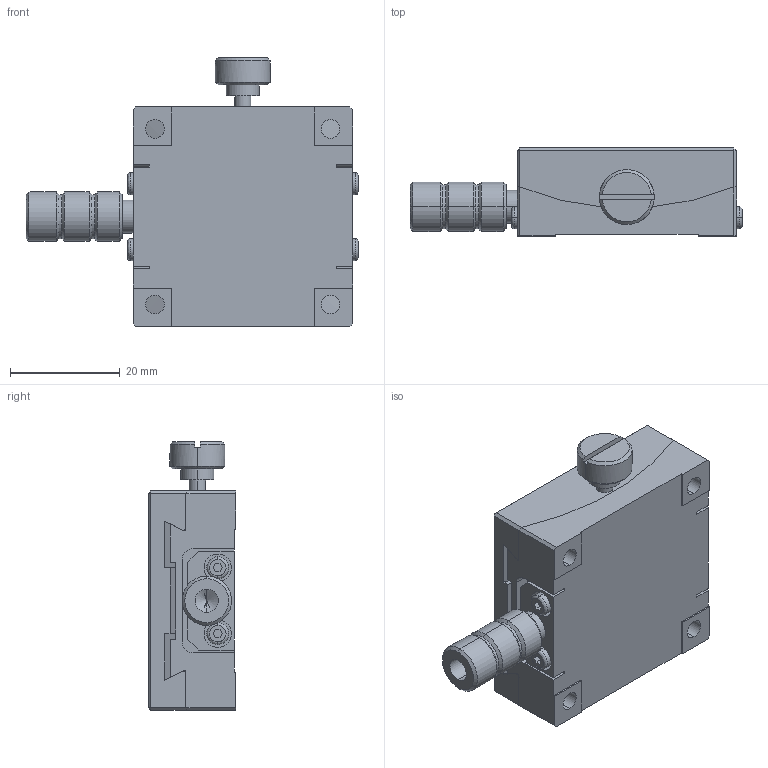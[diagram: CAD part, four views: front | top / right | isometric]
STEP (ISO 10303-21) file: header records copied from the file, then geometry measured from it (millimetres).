
FILE_DESCRIPTION (( 'STEP AP203' ), '1' );
FILE_NAME ('PT-SD4416.STEP', '2025-12-02T09:57:11', ( '' ), ( '' ), 'SwSTEP 2.0', 'SolidWorks 2023', '' );
FILE_SCHEMA (( 'CONFIG_CONTROL_DESIGN' ));
Length unit declared in the file: millimetre
Products named in the file (3): GFG4030-H16-2; GFG4030-H16-1; PT-SD4416
Assembly tree (2 placements, depth 2):
  PT-SD4416
    GFG4030-H16-2
    GFG4030-H16-1
Bounding box: 60.5 x 16 x 49 mm (x, y, z)
Volume: 24367.4 mm3; surface area: 12410.9 mm2
Topology: 2 solids, 2 shells, 280 faces, 700 edges, 429 vertices
Faces by surface type: plane 112, cylinder 92, cone 52, bspline 24
Entity records: 9131 total; most frequent: CARTESIAN_POINT 2262, DIRECTION 1378, ORIENTED_EDGE 1364, EDGE_CURVE 682, AXIS2_PLACEMENT_3D 491, VERTEX_POINT 429, VECTOR 396, LINE 396
